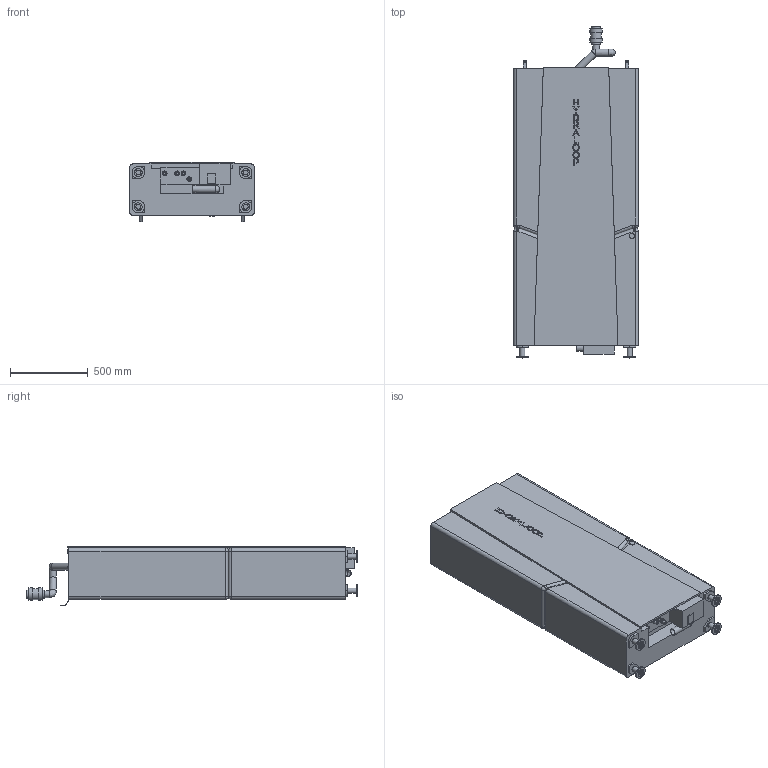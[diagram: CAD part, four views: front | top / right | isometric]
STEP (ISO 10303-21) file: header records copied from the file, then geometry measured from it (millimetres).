
FILE_DESCRIPTION(/* description */ (''),/* implementation_level */ '2;1');
FILE_NAME(/* name */ 'C:\Users\PWillering\Hydraloop Dropbox\05 R & D\01 MECHANICAL ENGINEERING\ENGINEERING WORKSPACE\CAD LIBRARY RELEASED PRODUCTS\H300 V2.1\Simplified- H300 Collection2025 IDV.stp',/* time_stamp */ '2025-04-25T15:56:48+02:00',/* author */ ('PWillering'),/* organization */ (''),/* preprocessor_version */ 'ST-DEVELOPER v18.1',/* originating_system */ 'Autodesk Inventor 2022',/* authorisation */ '');
FILE_SCHEMA (('AUTOMOTIVE_DESIGN { 1 0 10303 214 3 1 1 }'));
Length unit declared in the file: millimetre
Products named in the file (1): 22-11-2024 BIM Model H300
Bounding box: 800 x 2133.12 x 384.17 mm (x, y, z)
Volume: 474198801.2 mm3; surface area: 5271124.1 mm2
Topology: 9 solids, 13 shells, 465 faces, 1097 edges, 704 vertices
Faces by surface type: plane 319, cylinder 85, bspline 51, sphere 8, torus 2
Full cylindrical faces by diameter (mm): 6.5 x2, 14 x8, 20 x4, 30 x8, 31 x4, 34 x5, 40 x2, 40.2 x1, 44 x2, 45 x6, 50 x4, 52.6 x2, 70 x1, 79 x4, 81.6 x2
Entity records: 13610 total; most frequent: CARTESIAN_POINT 3089, ORIENTED_EDGE 2162, DIRECTION 2008, EDGE_CURVE 1081, LINE 784, VECTOR 784, VERTEX_POINT 704, AXIS2_PLACEMENT_3D 612
